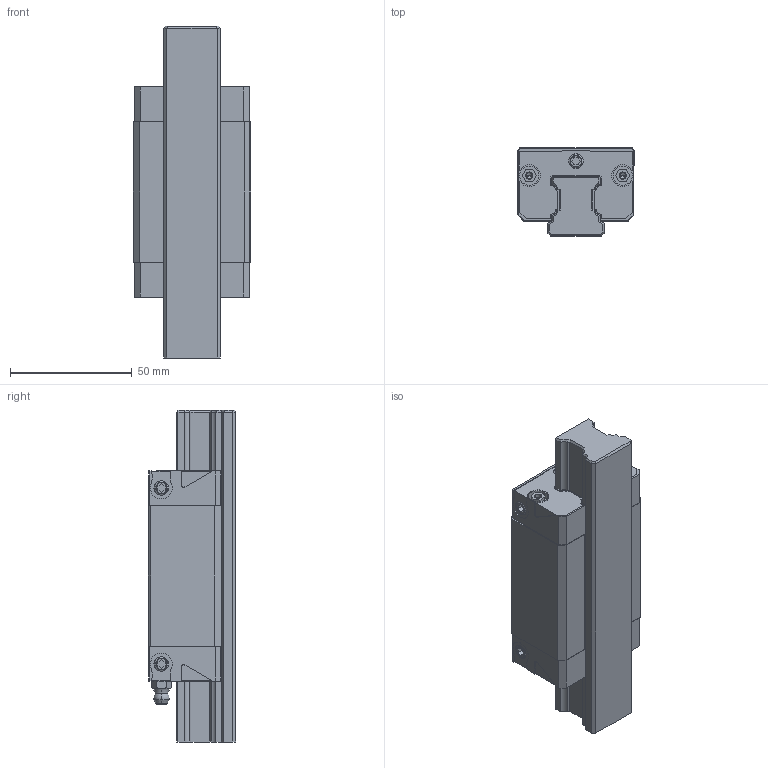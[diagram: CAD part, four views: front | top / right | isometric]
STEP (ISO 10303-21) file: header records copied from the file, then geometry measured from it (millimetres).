
FILE_DESCRIPTION((''),'2;1');
FILE_NAME('KWD_025_SNS_CS__ASM','2021-10-14T06:38:31',('ac91sw'),(''),'CREO PARAMETRIC BY PTC INC, 2020044','CREO PARAMETRIC BY PTC INC, 2020044','');
FILE_SCHEMA(('AUTOMOTIVE_DESIGN { 1 0 10303 214 1 1 1 1 }'));
Length unit declared in the file: millimetre
Products named in the file (7): KWD_025_SNS_CS__SKEL; R201120131; R200120102_Z; R343706101_Z; KWD_025_SNS_CS__PSF; R341700802_Z; KWD_025_SNS_CS__ASM
Assembly tree (11 placements, depth 2):
  KWD_025_SNS_CS__ASM
    KWD_025_SNS_CS__SKEL
    R201120131
    R200120102_Z  x2
    R343706101_Z  x5
    KWD_025_SNS_CS__PSF
    R341700802_Z
Bounding box: 48 x 36 x 136.2 mm (x, y, z)
Volume: 137713.5 mm3; surface area: 45996.6 mm2
Topology: 10 solids, 24 shells, 512 faces, 1310 edges, 830 vertices
Faces by surface type: plane 292, cylinder 142, cone 72, torus 4, sphere 2
Entity records: 16430 total; most frequent: CARTESIAN_POINT 1945, DIRECTION 1648, ORIENTED_EDGE 1540, PROPERTY_DEFINITION 823, REPRESENTATION 814, PROPERTY_DEFINITION_REPRESENTATION 814, EDGE_CURVE 786, DESCRIPTIVE_REPRESENTATION_ITEM 757
